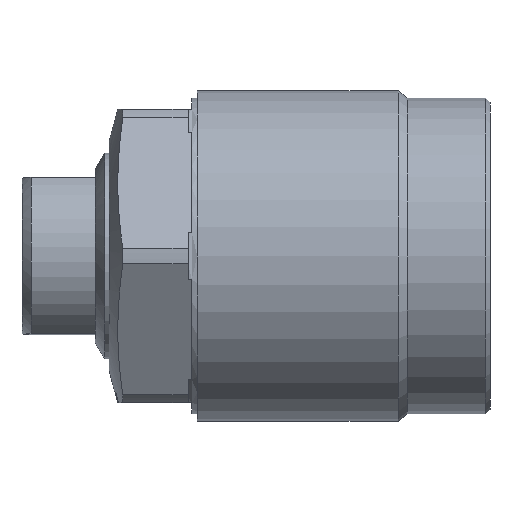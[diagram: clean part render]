
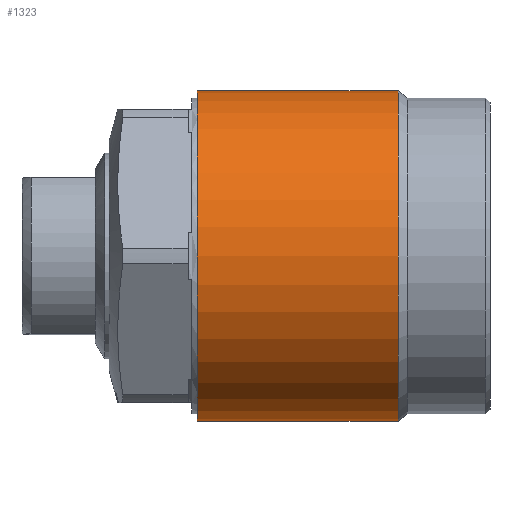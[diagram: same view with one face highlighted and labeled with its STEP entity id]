
A CAD part, left-side view. The second image highlights one B-rep face of the part: STEP entity #1323.
In plain terms, the highlighted cylindrical face has radius 18 mm (diameter 36 mm), a partial arc.
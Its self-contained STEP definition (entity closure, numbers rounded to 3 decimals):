
#618 = CARTESIAN_POINT ( 'NONE',  ( 0., -54.764, 18. ) ) ;
#648 = CARTESIAN_POINT ( 'NONE',  ( 0., -54.764, 0. ) ) ;
#913 = DIRECTION ( 'NONE',  ( 0., 0., -1. ) ) ;
#1011 = EDGE_CURVE ( 'NONE', #2567, #3694, #4094, .T. ) ;
#1323 = ADVANCED_FACE ( 'NONE', ( #5186 ), #7650, .T. ) ;
#1476 = LINE ( 'NONE', #618, #3575 ) ;
#1692 = DIRECTION ( 'NONE',  ( 0., -1., 0. ) ) ;
#2567 = VERTEX_POINT ( 'NONE', #6903 ) ;
#2584 = EDGE_CURVE ( 'NONE', #7012, #2823, #9752, .T. ) ;
#2823 = VERTEX_POINT ( 'NONE', #7352 ) ;
#3006 = LINE ( 'NONE', #9225, #10960 ) ;
#3575 = VECTOR ( 'NONE', #6783, 1000. ) ;
#3694 = VERTEX_POINT ( 'NONE', #7217 ) ;
#3955 = ORIENTED_EDGE ( 'NONE', *, *, #1011, .F. ) ;
#4094 = CIRCLE ( 'NONE', #7334, 18. ) ;
#4300 = CARTESIAN_POINT ( 'NONE',  ( 0., 25.501, 18. ) ) ;
#4467 = CARTESIAN_POINT ( 'NONE',  ( 0., 3.601, 0. ) ) ;
#4757 = EDGE_CURVE ( 'NONE', #7012, #2567, #1476, .T. ) ;
#5160 = AXIS2_PLACEMENT_3D ( 'NONE', #13318, #7081, #913 ) ;
#5186 = FACE_OUTER_BOUND ( 'NONE', #10962, .T. ) ;
#5485 = DIRECTION ( 'NONE',  ( 0., 0., -1. ) ) ;
#5692 = AXIS2_PLACEMENT_3D ( 'NONE', #648, #1692, #6811 ) ;
#5809 = ORIENTED_EDGE ( 'NONE', *, *, #4757, .F. ) ;
#6783 = DIRECTION ( 'NONE',  ( 0., -1., 0. ) ) ;
#6811 = DIRECTION ( 'NONE',  ( 0., 0., -1. ) ) ;
#6903 = CARTESIAN_POINT ( 'NONE',  ( 0., 3.601, 18. ) ) ;
#7012 = VERTEX_POINT ( 'NONE', #4300 ) ;
#7081 = DIRECTION ( 'NONE',  ( 0., -1., 0. ) ) ;
#7113 = ORIENTED_EDGE ( 'NONE', *, *, #11123, .T. ) ;
#7217 = CARTESIAN_POINT ( 'NONE',  ( 0., 3.601, -18. ) ) ;
#7334 = AXIS2_PLACEMENT_3D ( 'NONE', #4467, #11740, #5485 ) ;
#7352 = CARTESIAN_POINT ( 'NONE',  ( 0., 25.501, -18. ) ) ;
#7650 = CYLINDRICAL_SURFACE ( 'NONE', #5692, 18. ) ;
#8344 = ORIENTED_EDGE ( 'NONE', *, *, #2584, .T. ) ;
#9225 = CARTESIAN_POINT ( 'NONE',  ( 0., -54.764, -18. ) ) ;
#9752 = CIRCLE ( 'NONE', #5160, 18. ) ;
#10960 = VECTOR ( 'NONE', #13408, 1000. ) ;
#10962 = EDGE_LOOP ( 'NONE', ( #5809, #8344, #7113, #3955 ) ) ;
#11123 = EDGE_CURVE ( 'NONE', #2823, #3694, #3006, .T. ) ;
#11740 = DIRECTION ( 'NONE',  ( 0., -1., 0. ) ) ;
#13318 = CARTESIAN_POINT ( 'NONE',  ( 0., 25.501, 0. ) ) ;
#13408 = DIRECTION ( 'NONE',  ( 0., -1., 0. ) ) ;
